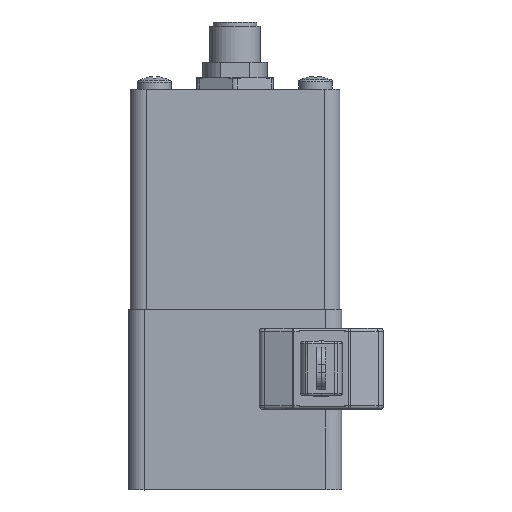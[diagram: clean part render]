
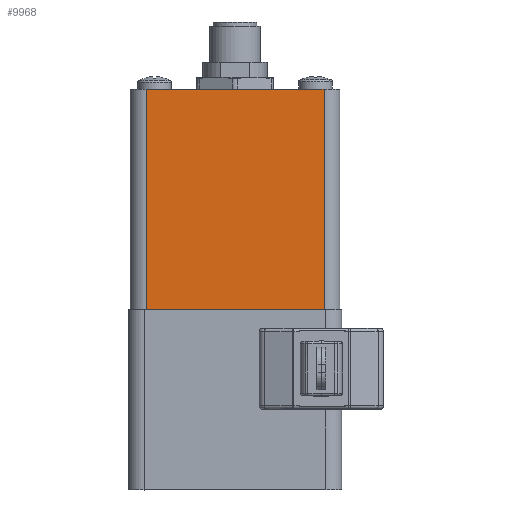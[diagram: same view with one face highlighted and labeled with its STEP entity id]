
A CAD part, top view. The second image highlights one B-rep face of the part: STEP entity #9968.
In plain terms, the highlighted planar face has unit normal (0, 0, 1).
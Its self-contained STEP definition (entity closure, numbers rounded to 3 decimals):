
#9149=CARTESIAN_POINT('',(-19.215,17.675,53.155));
#9150=VERTEX_POINT('',#9149);
#9200=CARTESIAN_POINT('',(22.785,17.675,53.155));
#9201=VERTEX_POINT('',#9200);
#9209=CARTESIAN_POINT('',(-19.215,17.675,53.155));
#9210=DIRECTION('',(1.0,0.0,0.0));
#9211=VECTOR('',#9210,42.0);
#9212=LINE('',#9209,#9211);
#9213=EDGE_CURVE('',#9150,#9201,#9212,.T.);
#9869=CARTESIAN_POINT('',(22.785,69.675,53.155));
#9870=VERTEX_POINT('',#9869);
#9871=CARTESIAN_POINT('',(22.785,69.675,53.155));
#9872=DIRECTION('',(0.0,-1.0,0.0));
#9873=VECTOR('',#9872,52.0);
#9874=LINE('',#9871,#9873);
#9875=EDGE_CURVE('',#9870,#9201,#9874,.T.);
#9934=CARTESIAN_POINT('',(-19.215,69.675,53.155));
#9935=VERTEX_POINT('',#9934);
#9936=CARTESIAN_POINT('',(-19.215,17.675,53.155));
#9937=DIRECTION('',(0.0,1.0,0.0));
#9938=VECTOR('',#9937,52.0);
#9939=LINE('',#9936,#9938);
#9940=EDGE_CURVE('',#9150,#9935,#9939,.T.);
#9952=CARTESIAN_POINT('',(26.535,66.575,53.155));
#9953=DIRECTION('',(0.0,0.0,1.0));
#9954=DIRECTION('',(0.0,-1.0,0.0));
#9955=AXIS2_PLACEMENT_3D('',#9952,#9953,#9954);
#9956=PLANE('',#9955);
#9957=ORIENTED_EDGE('',*,*,#9940,.F.);
#9958=ORIENTED_EDGE('',*,*,#9213,.T.);
#9959=ORIENTED_EDGE('',*,*,#9875,.F.);
#9960=CARTESIAN_POINT('',(22.785,69.675,53.155));
#9961=DIRECTION('',(-1.0,0.0,0.0));
#9962=VECTOR('',#9961,42.0);
#9963=LINE('',#9960,#9962);
#9964=EDGE_CURVE('',#9870,#9935,#9963,.T.);
#9965=ORIENTED_EDGE('',*,*,#9964,.T.);
#9966=EDGE_LOOP('',(#9957,#9958,#9959,#9965));
#9967=FACE_OUTER_BOUND('',#9966,.T.);
#9968=ADVANCED_FACE('',(#9967),#9956,.T.);
